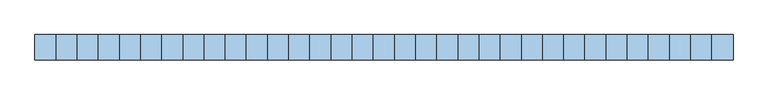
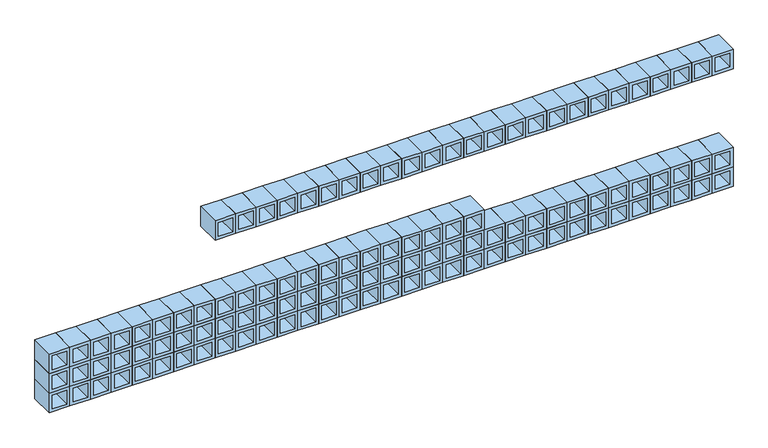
"""IFC4 building model written with IfcOpenShell, lengths in millimetres: window geometry, Concrete_Cobog_Hollow_block_14694 : Cobogó 3,25 x 0,80 m."""

from ifc_helpers import new_model, si_unit, frame, origin, place, context, project, spatial, polyline, outline, extrude, source, transform, mapped, element, save


def window_6c828501(model_context):
    return source(origin(), model_context, "Body", "SweptSolid", [
        extrude(outline(polyline([(1100.0, 450.0), (1200.0, 450.0), (1200.0, 350.0), (1100.0, 350.0), (1100.0, 450.0)]), holes=[polyline([(1185.0, 365.0), (1185.0, 435.0), (1115.0, 435.0), (1115.0, 365.0), (1185.0, 365.0)])]), frame((0.0, -60.0, 0.0), z_axis=(0.0, 1.0, 0.0), x_axis=(0.0, 0.0, 1.0)), (0.0, 0.0, 1.0), 120.0),
        extrude(outline(polyline([(1100.0, 350.0), (1200.0, 350.0), (1200.0, 250.0), (1100.0, 250.0), (1100.0, 350.0)]), holes=[polyline([(1185.0, 265.0), (1185.0, 335.0), (1115.0, 335.0), (1115.0, 265.0), (1185.0, 265.0)])]), frame((0.0, -60.0, 0.0), z_axis=(0.0, 1.0, 0.0), x_axis=(0.0, 0.0, 1.0)), (0.0, 0.0, 1.0), 120.0),
        extrude(outline(polyline([(1100.0, 250.0), (1200.0, 250.0), (1200.0, 150.0), (1100.0, 150.0), (1100.0, 250.0)]), holes=[polyline([(1185.0, 165.0), (1185.0, 235.0), (1115.0, 235.0), (1115.0, 165.0), (1185.0, 165.0)])]), frame((0.0, -60.0, 0.0), z_axis=(0.0, 1.0, 0.0), x_axis=(0.0, 0.0, 1.0)), (0.0, 0.0, 1.0), 120.0),
        extrude(outline(polyline([(1100.0, 150.0), (1200.0, 150.0), (1200.0, 50.0), (1100.0, 50.0), (1100.0, 150.0)]), holes=[polyline([(1185.0, 65.0), (1185.0, 135.0), (1115.0, 135.0), (1115.0, 65.0), (1185.0, 65.0)])]), frame((0.0, -60.0, 0.0), z_axis=(0.0, 1.0, 0.0), x_axis=(0.0, 0.0, 1.0)), (0.0, 0.0, 1.0), 120.0),
        extrude(outline(polyline([(1100.0, 50.0), (1200.0, 50.0), (1200.0, -50.0), (1100.0, -50.0), (1100.0, 50.0)]), holes=[polyline([(1185.0, -35.0), (1185.0, 35.0), (1115.0, 35.0), (1115.0, -35.0), (1185.0, -35.0)])]), frame((0.0, -60.0, 0.0), z_axis=(0.0, 1.0, 0.0), x_axis=(0.0, 0.0, 1.0)), (0.0, 0.0, 1.0), 120.0),
        extrude(outline(polyline([(1100.0, -50.0), (1200.0, -50.0), (1200.0, -150.0), (1100.0, -150.0), (1100.0, -50.0)]), holes=[polyline([(1185.0, -135.0), (1185.0, -65.0), (1115.0, -65.0), (1115.0, -135.0), (1185.0, -135.0)])]), frame((0.0, -60.0, 0.0), z_axis=(0.0, 1.0, 0.0), x_axis=(0.0, 0.0, 1.0)), (0.0, 0.0, 1.0), 120.0),
        extrude(outline(polyline([(1100.0, -150.0), (1200.0, -150.0), (1200.0, -250.0), (1100.0, -250.0), (1100.0, -150.0)]), holes=[polyline([(1185.0, -235.0), (1185.0, -165.0), (1115.0, -165.0), (1115.0, -235.0), (1185.0, -235.0)])]), frame((0.0, -60.0, 0.0), z_axis=(0.0, 1.0, 0.0), x_axis=(0.0, 0.0, 1.0)), (0.0, 0.0, 1.0), 120.0),
        extrude(outline(polyline([(1100.0, -250.0), (1200.0, -250.0), (1200.0, -350.0), (1100.0, -350.0), (1100.0, -250.0)]), holes=[polyline([(1185.0, -335.0), (1185.0, -265.0), (1115.0, -265.0), (1115.0, -335.0), (1185.0, -335.0)])]), frame((0.0, -60.0, 0.0), z_axis=(0.0, 1.0, 0.0), x_axis=(0.0, 0.0, 1.0)), (0.0, 0.0, 1.0), 120.0),
        extrude(outline(polyline([(1100.0, -350.0), (1200.0, -350.0), (1200.0, -450.0), (1100.0, -450.0), (1100.0, -350.0)]), holes=[polyline([(1185.0, -435.0), (1185.0, -365.0), (1115.0, -365.0), (1115.0, -435.0), (1185.0, -435.0)])]), frame((0.0, -60.0, 0.0), z_axis=(0.0, 1.0, 0.0), x_axis=(0.0, 0.0, 1.0)), (0.0, 0.0, 1.0), 120.0),
        extrude(outline(polyline([(1100.0, -450.0), (1200.0, -450.0), (1200.0, -550.0), (1100.0, -550.0), (1100.0, -450.0)]), holes=[polyline([(1185.0, -535.0), (1185.0, -465.0), (1115.0, -465.0), (1115.0, -535.0), (1185.0, -535.0)])]), frame((0.0, -60.0, 0.0), z_axis=(0.0, 1.0, 0.0), x_axis=(0.0, 0.0, 1.0)), (0.0, 0.0, 1.0), 120.0),
        extrude(outline(polyline([(1100.0, -550.0), (1200.0, -550.0), (1200.0, -650.0), (1100.0, -650.0), (1100.0, -550.0)]), holes=[polyline([(1185.0, -635.0), (1185.0, -565.0), (1115.0, -565.0), (1115.0, -635.0), (1185.0, -635.0)])]), frame((0.0, -60.0, 0.0), z_axis=(0.0, 1.0, 0.0), x_axis=(0.0, 0.0, 1.0)), (0.0, 0.0, 1.0), 120.0),
        extrude(outline(polyline([(1100.0, -650.0), (1200.0, -650.0), (1200.0, -750.0), (1100.0, -750.0), (1100.0, -650.0)]), holes=[polyline([(1185.0, -735.0), (1185.0, -665.0), (1115.0, -665.0), (1115.0, -735.0), (1185.0, -735.0)])]), frame((0.0, -60.0, 0.0), z_axis=(0.0, 1.0, 0.0), x_axis=(0.0, 0.0, 1.0)), (0.0, 0.0, 1.0), 120.0),
        extrude(outline(polyline([(1100.0, -750.0), (1200.0, -750.0), (1200.0, -850.0), (1100.0, -850.0), (1100.0, -750.0)]), holes=[polyline([(1185.0, -835.0), (1185.0, -765.0), (1115.0, -765.0), (1115.0, -835.0), (1185.0, -835.0)])]), frame((0.0, -60.0, 0.0), z_axis=(0.0, 1.0, 0.0), x_axis=(0.0, 0.0, 1.0)), (0.0, 0.0, 1.0), 120.0),
        extrude(outline(polyline([(1100.0, -850.0), (1200.0, -850.0), (1200.0, -950.0), (1100.0, -950.0), (1100.0, -850.0)]), holes=[polyline([(1185.0, -935.0), (1185.0, -865.0), (1115.0, -865.0), (1115.0, -935.0), (1185.0, -935.0)])]), frame((0.0, -60.0, 0.0), z_axis=(0.0, 1.0, 0.0), x_axis=(0.0, 0.0, 1.0)), (0.0, 0.0, 1.0), 120.0),
        extrude(outline(polyline([(1100.0, -950.0), (1200.0, -950.0), (1200.0, -1050.0), (1100.0, -1050.0), (1100.0, -950.0)]), holes=[polyline([(1185.0, -1035.0), (1185.0, -965.0), (1115.0, -965.0), (1115.0, -1035.0), (1185.0, -1035.0)])]), frame((0.0, -60.0, 0.0), z_axis=(0.0, 1.0, 0.0), x_axis=(0.0, 0.0, 1.0)), (0.0, 0.0, 1.0), 120.0),
        extrude(outline(polyline([(1100.0, -1050.0), (1200.0, -1050.0), (1200.0, -1150.0), (1100.0, -1150.0), (1100.0, -1050.0)]), holes=[polyline([(1185.0, -1135.0), (1185.0, -1065.0), (1115.0, -1065.0), (1115.0, -1135.0), (1185.0, -1135.0)])]), frame((0.0, -60.0, 0.0), z_axis=(0.0, 1.0, 0.0), x_axis=(0.0, 0.0, 1.0)), (0.0, 0.0, 1.0), 120.0),
        extrude(outline(polyline([(1100.0, -1150.0), (1200.0, -1150.0), (1200.0, -1250.0), (1100.0, -1250.0), (1100.0, -1150.0)]), holes=[polyline([(1185.0, -1235.0), (1185.0, -1165.0), (1115.0, -1165.0), (1115.0, -1235.0), (1185.0, -1235.0)])]), frame((0.0, -60.0, 0.0), z_axis=(0.0, 1.0, 0.0), x_axis=(0.0, 0.0, 1.0)), (0.0, 0.0, 1.0), 120.0),
        extrude(outline(polyline([(1100.0, -1250.0), (1200.0, -1250.0), (1200.0, -1350.0), (1100.0, -1350.0), (1100.0, -1250.0)]), holes=[polyline([(1185.0, -1335.0), (1185.0, -1265.0), (1115.0, -1265.0), (1115.0, -1335.0), (1185.0, -1335.0)])]), frame((0.0, -60.0, 0.0), z_axis=(0.0, 1.0, 0.0), x_axis=(0.0, 0.0, 1.0)), (0.0, 0.0, 1.0), 120.0),
        extrude(outline(polyline([(1100.0, -1350.0), (1200.0, -1350.0), (1200.0, -1450.0), (1100.0, -1450.0), (1100.0, -1350.0)]), holes=[polyline([(1185.0, -1435.0), (1185.0, -1365.0), (1115.0, -1365.0), (1115.0, -1435.0), (1185.0, -1435.0)])]), frame((0.0, -60.0, 0.0), z_axis=(0.0, 1.0, 0.0), x_axis=(0.0, 0.0, 1.0)), (0.0, 0.0, 1.0), 120.0),
        extrude(outline(polyline([(1100.0, -1450.0), (1200.0, -1450.0), (1200.0, -1550.0), (1100.0, -1550.0), (1100.0, -1450.0)]), holes=[polyline([(1185.0, -1535.0), (1185.0, -1465.0), (1115.0, -1465.0), (1115.0, -1535.0), (1185.0, -1535.0)])]), frame((0.0, -60.0, 0.0), z_axis=(0.0, 1.0, 0.0), x_axis=(0.0, 0.0, 1.0)), (0.0, 0.0, 1.0), 120.0),
        extrude(outline(polyline([(1100.0, -1550.0), (1200.0, -1550.0), (1200.0, -1650.0), (1100.0, -1650.0), (1100.0, -1550.0)]), holes=[polyline([(1185.0, -1635.0), (1185.0, -1565.0), (1115.0, -1565.0), (1115.0, -1635.0), (1185.0, -1635.0)])]), frame((0.0, -60.0, 0.0), z_axis=(0.0, 1.0, 0.0), x_axis=(0.0, 0.0, 1.0)), (0.0, 0.0, 1.0), 120.0),
        extrude(outline(polyline([(1000.0, 1650.0), (1100.0, 1650.0), (1100.0, 1550.0), (1000.0, 1550.0), (1000.0, 1650.0)]), holes=[polyline([(1085.0, 1565.0), (1085.0, 1635.0), (1015.0, 1635.0), (1015.0, 1565.0), (1085.0, 1565.0)])]), frame((0.0, -60.0, 0.0), z_axis=(0.0, 1.0, 0.0), x_axis=(0.0, 0.0, 1.0)), (0.0, 0.0, 1.0), 120.0),
        extrude(outline(polyline([(1000.0, 1550.0), (1100.0, 1550.0), (1100.0, 1450.0), (1000.0, 1450.0), (1000.0, 1550.0)]), holes=[polyline([(1085.0, 1465.0), (1085.0, 1535.0), (1015.0, 1535.0), (1015.0, 1465.0), (1085.0, 1465.0)])]), frame((0.0, -60.0, 0.0), z_axis=(0.0, 1.0, 0.0), x_axis=(0.0, 0.0, 1.0)), (0.0, 0.0, 1.0), 120.0),
        extrude(outline(polyline([(1000.0, 1450.0), (1100.0, 1450.0), (1100.0, 1350.0), (1000.0, 1350.0), (1000.0, 1450.0)]), holes=[polyline([(1085.0, 1365.0), (1085.0, 1435.0), (1015.0, 1435.0), (1015.0, 1365.0), (1085.0, 1365.0)])]), frame((0.0, -60.0, 0.0), z_axis=(0.0, 1.0, 0.0), x_axis=(0.0, 0.0, 1.0)), (0.0, 0.0, 1.0), 120.0),
        extrude(outline(polyline([(1000.0, 1350.0), (1100.0, 1350.0), (1100.0, 1250.0), (1000.0, 1250.0), (1000.0, 1350.0)]), holes=[polyline([(1085.0, 1265.0), (1085.0, 1335.0), (1015.0, 1335.0), (1015.0, 1265.0), (1085.0, 1265.0)])]), frame((0.0, -60.0, 0.0), z_axis=(0.0, 1.0, 0.0), x_axis=(0.0, 0.0, 1.0)), (0.0, 0.0, 1.0), 120.0),
        extrude(outline(polyline([(1000.0, 1250.0), (1100.0, 1250.0), (1100.0, 1150.0), (1000.0, 1150.0), (1000.0, 1250.0)]), holes=[polyline([(1085.0, 1165.0), (1085.0, 1235.0), (1015.0, 1235.0), (1015.0, 1165.0), (1085.0, 1165.0)])]), frame((0.0, -60.0, 0.0), z_axis=(0.0, 1.0, 0.0), x_axis=(0.0, 0.0, 1.0)), (0.0, 0.0, 1.0), 120.0),
        extrude(outline(polyline([(1000.0, 1150.0), (1100.0, 1150.0), (1100.0, 1050.0), (1000.0, 1050.0), (1000.0, 1150.0)]), holes=[polyline([(1085.0, 1065.0), (1085.0, 1135.0), (1015.0, 1135.0), (1015.0, 1065.0), (1085.0, 1065.0)])]), frame((0.0, -60.0, 0.0), z_axis=(0.0, 1.0, 0.0), x_axis=(0.0, 0.0, 1.0)), (0.0, 0.0, 1.0), 120.0),
        extrude(outline(polyline([(1000.0, 1050.0), (1100.0, 1050.0), (1100.0, 950.0), (1000.0, 950.0), (1000.0, 1050.0)]), holes=[polyline([(1085.0, 965.0), (1085.0, 1035.0), (1015.0, 1035.0), (1015.0, 965.0), (1085.0, 965.0)])]), frame((0.0, -60.0, 0.0), z_axis=(0.0, 1.0, 0.0), x_axis=(0.0, 0.0, 1.0)), (0.0, 0.0, 1.0), 120.0),
        extrude(outline(polyline([(1000.0, 950.0), (1100.0, 950.0), (1100.0, 850.0), (1000.0, 850.0), (1000.0, 950.0)]), holes=[polyline([(1085.0, 865.0), (1085.0, 935.0), (1015.0, 935.0), (1015.0, 865.0), (1085.0, 865.0)])]), frame((0.0, -60.0, 0.0), z_axis=(0.0, 1.0, 0.0), x_axis=(0.0, 0.0, 1.0)), (0.0, 0.0, 1.0), 120.0),
        extrude(outline(polyline([(1000.0, 850.0), (1100.0, 850.0), (1100.0, 750.0), (1000.0, 750.0), (1000.0, 850.0)]), holes=[polyline([(1085.0, 765.0), (1085.0, 835.0), (1015.0, 835.0), (1015.0, 765.0), (1085.0, 765.0)])]), frame((0.0, -60.0, 0.0), z_axis=(0.0, 1.0, 0.0), x_axis=(0.0, 0.0, 1.0)), (0.0, 0.0, 1.0), 120.0),
        extrude(outline(polyline([(1000.0, 750.0), (1100.0, 750.0), (1100.0, 650.0), (1000.0, 650.0), (1000.0, 750.0)]), holes=[polyline([(1085.0, 665.0), (1085.0, 735.0), (1015.0, 735.0), (1015.0, 665.0), (1085.0, 665.0)])]), frame((0.0, -60.0, 0.0), z_axis=(0.0, 1.0, 0.0), x_axis=(0.0, 0.0, 1.0)), (0.0, 0.0, 1.0), 120.0),
        extrude(outline(polyline([(1000.0, 650.0), (1100.0, 650.0), (1100.0, 550.0), (1000.0, 550.0), (1000.0, 650.0)]), holes=[polyline([(1085.0, 565.0), (1085.0, 635.0), (1015.0, 635.0), (1015.0, 565.0), (1085.0, 565.0)])]), frame((0.0, -60.0, 0.0), z_axis=(0.0, 1.0, 0.0), x_axis=(0.0, 0.0, 1.0)), (0.0, 0.0, 1.0), 120.0),
        extrude(outline(polyline([(1000.0, 550.0), (1100.0, 550.0), (1100.0, 450.0), (1000.0, 450.0), (1000.0, 550.0)]), holes=[polyline([(1085.0, 465.0), (1085.0, 535.0), (1015.0, 535.0), (1015.0, 465.0), (1085.0, 465.0)])]), frame((0.0, -60.0, 0.0), z_axis=(0.0, 1.0, 0.0), x_axis=(0.0, 0.0, 1.0)), (0.0, 0.0, 1.0), 120.0),
        extrude(outline(polyline([(1000.0, 450.0), (1100.0, 450.0), (1100.0, 350.0), (1000.0, 350.0), (1000.0, 450.0)]), holes=[polyline([(1085.0, 365.0), (1085.0, 435.0), (1015.0, 435.0), (1015.0, 365.0), (1085.0, 365.0)])]), frame((0.0, -60.0, 0.0), z_axis=(0.0, 1.0, 0.0), x_axis=(0.0, 0.0, 1.0)), (0.0, 0.0, 1.0), 120.0),
        extrude(outline(polyline([(1000.0, 350.0), (1100.0, 350.0), (1100.0, 250.0), (1000.0, 250.0), (1000.0, 350.0)]), holes=[polyline([(1085.0, 265.0), (1085.0, 335.0), (1015.0, 335.0), (1015.0, 265.0), (1085.0, 265.0)])]), frame((0.0, -60.0, 0.0), z_axis=(0.0, 1.0, 0.0), x_axis=(0.0, 0.0, 1.0)), (0.0, 0.0, 1.0), 120.0),
        extrude(outline(polyline([(1000.0, 250.0), (1100.0, 250.0), (1100.0, 150.0), (1000.0, 150.0), (1000.0, 250.0)]), holes=[polyline([(1085.0, 165.0), (1085.0, 235.0), (1015.0, 235.0), (1015.0, 165.0), (1085.0, 165.0)])]), frame((0.0, -60.0, 0.0), z_axis=(0.0, 1.0, 0.0), x_axis=(0.0, 0.0, 1.0)), (0.0, 0.0, 1.0), 120.0),
        extrude(outline(polyline([(1000.0, 150.0), (1100.0, 150.0), (1100.0, 50.0), (1000.0, 50.0), (1000.0, 150.0)]), holes=[polyline([(1085.0, 65.0), (1085.0, 135.0), (1015.0, 135.0), (1015.0, 65.0), (1085.0, 65.0)])]), frame((0.0, -60.0, 0.0), z_axis=(0.0, 1.0, 0.0), x_axis=(0.0, 0.0, 1.0)), (0.0, 0.0, 1.0), 120.0),
        extrude(outline(polyline([(1000.0, 50.0), (1100.0, 50.0), (1100.0, -50.0), (1000.0, -50.0), (1000.0, 50.0)]), holes=[polyline([(1085.0, -35.0), (1085.0, 35.0), (1015.0, 35.0), (1015.0, -35.0), (1085.0, -35.0)])]), frame((0.0, -60.0, 0.0), z_axis=(0.0, 1.0, 0.0), x_axis=(0.0, 0.0, 1.0)), (0.0, 0.0, 1.0), 120.0),
        extrude(outline(polyline([(1000.0, -50.0), (1100.0, -50.0), (1100.0, -150.0), (1000.0, -150.0), (1000.0, -50.0)]), holes=[polyline([(1085.0, -135.0), (1085.0, -65.0), (1015.0, -65.0), (1015.0, -135.0), (1085.0, -135.0)])]), frame((0.0, -60.0, 0.0), z_axis=(0.0, 1.0, 0.0), x_axis=(0.0, 0.0, 1.0)), (0.0, 0.0, 1.0), 120.0),
        extrude(outline(polyline([(1000.0, -150.0), (1100.0, -150.0), (1100.0, -250.0), (1000.0, -250.0), (1000.0, -150.0)]), holes=[polyline([(1085.0, -235.0), (1085.0, -165.0), (1015.0, -165.0), (1015.0, -235.0), (1085.0, -235.0)])]), frame((0.0, -60.0, 0.0), z_axis=(0.0, 1.0, 0.0), x_axis=(0.0, 0.0, 1.0)), (0.0, 0.0, 1.0), 120.0),
        extrude(outline(polyline([(1000.0, -250.0), (1100.0, -250.0), (1100.0, -350.0), (1000.0, -350.0), (1000.0, -250.0)]), holes=[polyline([(1085.0, -335.0), (1085.0, -265.0), (1015.0, -265.0), (1015.0, -335.0), (1085.0, -335.0)])]), frame((0.0, -60.0, 0.0), z_axis=(0.0, 1.0, 0.0), x_axis=(0.0, 0.0, 1.0)), (0.0, 0.0, 1.0), 120.0),
        extrude(outline(polyline([(1000.0, -350.0), (1100.0, -350.0), (1100.0, -450.0), (1000.0, -450.0), (1000.0, -350.0)]), holes=[polyline([(1085.0, -435.0), (1085.0, -365.0), (1015.0, -365.0), (1015.0, -435.0), (1085.0, -435.0)])]), frame((0.0, -60.0, 0.0), z_axis=(0.0, 1.0, 0.0), x_axis=(0.0, 0.0, 1.0)), (0.0, 0.0, 1.0), 120.0),
        extrude(outline(polyline([(1000.0, -450.0), (1100.0, -450.0), (1100.0, -550.0), (1000.0, -550.0), (1000.0, -450.0)]), holes=[polyline([(1085.0, -535.0), (1085.0, -465.0), (1015.0, -465.0), (1015.0, -535.0), (1085.0, -535.0)])]), frame((0.0, -60.0, 0.0), z_axis=(0.0, 1.0, 0.0), x_axis=(0.0, 0.0, 1.0)), (0.0, 0.0, 1.0), 120.0),
        extrude(outline(polyline([(1000.0, -550.0), (1100.0, -550.0), (1100.0, -650.0), (1000.0, -650.0), (1000.0, -550.0)]), holes=[polyline([(1085.0, -635.0), (1085.0, -565.0), (1015.0, -565.0), (1015.0, -635.0), (1085.0, -635.0)])]), frame((0.0, -60.0, 0.0), z_axis=(0.0, 1.0, 0.0), x_axis=(0.0, 0.0, 1.0)), (0.0, 0.0, 1.0), 120.0),
        extrude(outline(polyline([(1000.0, -650.0), (1100.0, -650.0), (1100.0, -750.0), (1000.0, -750.0), (1000.0, -650.0)]), holes=[polyline([(1085.0, -735.0), (1085.0, -665.0), (1015.0, -665.0), (1015.0, -735.0), (1085.0, -735.0)])]), frame((0.0, -60.0, 0.0), z_axis=(0.0, 1.0, 0.0), x_axis=(0.0, 0.0, 1.0)), (0.0, 0.0, 1.0), 120.0),
        extrude(outline(polyline([(1000.0, -750.0), (1100.0, -750.0), (1100.0, -850.0), (1000.0, -850.0), (1000.0, -750.0)]), holes=[polyline([(1085.0, -835.0), (1085.0, -765.0), (1015.0, -765.0), (1015.0, -835.0), (1085.0, -835.0)])]), frame((0.0, -60.0, 0.0), z_axis=(0.0, 1.0, 0.0), x_axis=(0.0, 0.0, 1.0)), (0.0, 0.0, 1.0), 120.0),
        extrude(outline(polyline([(1000.0, -850.0), (1100.0, -850.0), (1100.0, -950.0), (1000.0, -950.0), (1000.0, -850.0)]), holes=[polyline([(1085.0, -935.0), (1085.0, -865.0), (1015.0, -865.0), (1015.0, -935.0), (1085.0, -935.0)])]), frame((0.0, -60.0, 0.0), z_axis=(0.0, 1.0, 0.0), x_axis=(0.0, 0.0, 1.0)), (0.0, 0.0, 1.0), 120.0),
        extrude(outline(polyline([(1000.0, -950.0), (1100.0, -950.0), (1100.0, -1050.0), (1000.0, -1050.0), (1000.0, -950.0)]), holes=[polyline([(1085.0, -1035.0), (1085.0, -965.0), (1015.0, -965.0), (1015.0, -1035.0), (1085.0, -1035.0)])]), frame((0.0, -60.0, 0.0), z_axis=(0.0, 1.0, 0.0), x_axis=(0.0, 0.0, 1.0)), (0.0, 0.0, 1.0), 120.0),
        extrude(outline(polyline([(1000.0, -1050.0), (1100.0, -1050.0), (1100.0, -1150.0), (1000.0, -1150.0), (1000.0, -1050.0)]), holes=[polyline([(1085.0, -1135.0), (1085.0, -1065.0), (1015.0, -1065.0), (1015.0, -1135.0), (1085.0, -1135.0)])]), frame((0.0, -60.0, 0.0), z_axis=(0.0, 1.0, 0.0), x_axis=(0.0, 0.0, 1.0)), (0.0, 0.0, 1.0), 120.0),
        extrude(outline(polyline([(1000.0, -1150.0), (1100.0, -1150.0), (1100.0, -1250.0), (1000.0, -1250.0), (1000.0, -1150.0)]), holes=[polyline([(1085.0, -1235.0), (1085.0, -1165.0), (1015.0, -1165.0), (1015.0, -1235.0), (1085.0, -1235.0)])]), frame((0.0, -60.0, 0.0), z_axis=(0.0, 1.0, 0.0), x_axis=(0.0, 0.0, 1.0)), (0.0, 0.0, 1.0), 120.0),
        extrude(outline(polyline([(1000.0, -1250.0), (1100.0, -1250.0), (1100.0, -1350.0), (1000.0, -1350.0), (1000.0, -1250.0)]), holes=[polyline([(1085.0, -1335.0), (1085.0, -1265.0), (1015.0, -1265.0), (1015.0, -1335.0), (1085.0, -1335.0)])]), frame((0.0, -60.0, 0.0), z_axis=(0.0, 1.0, 0.0), x_axis=(0.0, 0.0, 1.0)), (0.0, 0.0, 1.0), 120.0),
        extrude(outline(polyline([(1000.0, -1350.0), (1100.0, -1350.0), (1100.0, -1450.0), (1000.0, -1450.0), (1000.0, -1350.0)]), holes=[polyline([(1085.0, -1435.0), (1085.0, -1365.0), (1015.0, -1365.0), (1015.0, -1435.0), (1085.0, -1435.0)])]), frame((0.0, -60.0, 0.0), z_axis=(0.0, 1.0, 0.0), x_axis=(0.0, 0.0, 1.0)), (0.0, 0.0, 1.0), 120.0),
        extrude(outline(polyline([(1000.0, -1450.0), (1100.0, -1450.0), (1100.0, -1550.0), (1000.0, -1550.0), (1000.0, -1450.0)]), holes=[polyline([(1085.0, -1535.0), (1085.0, -1465.0), (1015.0, -1465.0), (1015.0, -1535.0), (1085.0, -1535.0)])]), frame((0.0, -60.0, 0.0), z_axis=(0.0, 1.0, 0.0), x_axis=(0.0, 0.0, 1.0)), (0.0, 0.0, 1.0), 120.0),
        extrude(outline(polyline([(1000.0, -1550.0), (1100.0, -1550.0), (1100.0, -1650.0), (1000.0, -1650.0), (1000.0, -1550.0)]), holes=[polyline([(1085.0, -1635.0), (1085.0, -1565.0), (1015.0, -1565.0), (1015.0, -1635.0), (1085.0, -1635.0)])]), frame((0.0, -60.0, 0.0), z_axis=(0.0, 1.0, 0.0), x_axis=(0.0, 0.0, 1.0)), (0.0, 0.0, 1.0), 120.0),
        extrude(outline(polyline([(900.0, 1650.0), (1000.0, 1650.0), (1000.0, 1550.0), (900.0, 1550.0), (900.0, 1650.0)]), holes=[polyline([(985.0, 1565.0), (985.0, 1635.0), (915.0, 1635.0), (915.0, 1565.0), (985.0, 1565.0)])]), frame((0.0, -60.0, 0.0), z_axis=(0.0, 1.0, 0.0), x_axis=(0.0, 0.0, 1.0)), (0.0, 0.0, 1.0), 120.0),
        extrude(outline(polyline([(900.0, 1550.0), (1000.0, 1550.0), (1000.0, 1450.0), (900.0, 1450.0), (900.0, 1550.0)]), holes=[polyline([(985.0, 1465.0), (985.0, 1535.0), (915.0, 1535.0), (915.0, 1465.0), (985.0, 1465.0)])]), frame((0.0, -60.0, 0.0), z_axis=(0.0, 1.0, 0.0), x_axis=(0.0, 0.0, 1.0)), (0.0, 0.0, 1.0), 120.0),
        extrude(outline(polyline([(900.0, 1450.0), (1000.0, 1450.0), (1000.0, 1350.0), (900.0, 1350.0), (900.0, 1450.0)]), holes=[polyline([(985.0, 1365.0), (985.0, 1435.0), (915.0, 1435.0), (915.0, 1365.0), (985.0, 1365.0)])]), frame((0.0, -60.0, 0.0), z_axis=(0.0, 1.0, 0.0), x_axis=(0.0, 0.0, 1.0)), (0.0, 0.0, 1.0), 120.0),
        extrude(outline(polyline([(900.0, 1350.0), (1000.0, 1350.0), (1000.0, 1250.0), (900.0, 1250.0), (900.0, 1350.0)]), holes=[polyline([(985.0, 1265.0), (985.0, 1335.0), (915.0, 1335.0), (915.0, 1265.0), (985.0, 1265.0)])]), frame((0.0, -60.0, 0.0), z_axis=(0.0, 1.0, 0.0), x_axis=(0.0, 0.0, 1.0)), (0.0, 0.0, 1.0), 120.0),
        extrude(outline(polyline([(900.0, 1250.0), (1000.0, 1250.0), (1000.0, 1150.0), (900.0, 1150.0), (900.0, 1250.0)]), holes=[polyline([(985.0, 1165.0), (985.0, 1235.0), (915.0, 1235.0), (915.0, 1165.0), (985.0, 1165.0)])]), frame((0.0, -60.0, 0.0), z_axis=(0.0, 1.0, 0.0), x_axis=(0.0, 0.0, 1.0)), (0.0, 0.0, 1.0), 120.0),
        extrude(outline(polyline([(900.0, 1150.0), (1000.0, 1150.0), (1000.0, 1050.0), (900.0, 1050.0), (900.0, 1150.0)]), holes=[polyline([(985.0, 1065.0), (985.0, 1135.0), (915.0, 1135.0), (915.0, 1065.0), (985.0, 1065.0)])]), frame((0.0, -60.0, 0.0), z_axis=(0.0, 1.0, 0.0), x_axis=(0.0, 0.0, 1.0)), (0.0, 0.0, 1.0), 120.0),
        extrude(outline(polyline([(900.0, 1050.0), (1000.0, 1050.0), (1000.0, 950.0), (900.0, 950.0), (900.0, 1050.0)]), holes=[polyline([(985.0, 965.0), (985.0, 1035.0), (915.0, 1035.0), (915.0, 965.0), (985.0, 965.0)])]), frame((0.0, -60.0, 0.0), z_axis=(0.0, 1.0, 0.0), x_axis=(0.0, 0.0, 1.0)), (0.0, 0.0, 1.0), 120.0),
        extrude(outline(polyline([(900.0, 950.0), (1000.0, 950.0), (1000.0, 850.0), (900.0, 850.0), (900.0, 950.0)]), holes=[polyline([(985.0, 865.0), (985.0, 935.0), (915.0, 935.0), (915.0, 865.0), (985.0, 865.0)])]), frame((0.0, -60.0, 0.0), z_axis=(0.0, 1.0, 0.0), x_axis=(0.0, 0.0, 1.0)), (0.0, 0.0, 1.0), 120.0),
        extrude(outline(polyline([(900.0, 850.0), (1000.0, 850.0), (1000.0, 750.0), (900.0, 750.0), (900.0, 850.0)]), holes=[polyline([(985.0, 765.0), (985.0, 835.0), (915.0, 835.0), (915.0, 765.0), (985.0, 765.0)])]), frame((0.0, -60.0, 0.0), z_axis=(0.0, 1.0, 0.0), x_axis=(0.0, 0.0, 1.0)), (0.0, 0.0, 1.0), 120.0),
        extrude(outline(polyline([(900.0, 750.0), (1000.0, 750.0), (1000.0, 650.0), (900.0, 650.0), (900.0, 750.0)]), holes=[polyline([(985.0, 665.0), (985.0, 735.0), (915.0, 735.0), (915.0, 665.0), (985.0, 665.0)])]), frame((0.0, -60.0, 0.0), z_axis=(0.0, 1.0, 0.0), x_axis=(0.0, 0.0, 1.0)), (0.0, 0.0, 1.0), 120.0),
        extrude(outline(polyline([(900.0, 650.0), (1000.0, 650.0), (1000.0, 550.0), (900.0, 550.0), (900.0, 650.0)]), holes=[polyline([(985.0, 565.0), (985.0, 635.0), (915.0, 635.0), (915.0, 565.0), (985.0, 565.0)])]), frame((0.0, -60.0, 0.0), z_axis=(0.0, 1.0, 0.0), x_axis=(0.0, 0.0, 1.0)), (0.0, 0.0, 1.0), 120.0),
        extrude(outline(polyline([(900.0, 550.0), (1000.0, 550.0), (1000.0, 450.0), (900.0, 450.0), (900.0, 550.0)]), holes=[polyline([(985.0, 465.0), (985.0, 535.0), (915.0, 535.0), (915.0, 465.0), (985.0, 465.0)])]), frame((0.0, -60.0, 0.0), z_axis=(0.0, 1.0, 0.0), x_axis=(0.0, 0.0, 1.0)), (0.0, 0.0, 1.0), 120.0),
        extrude(outline(polyline([(900.0, 450.0), (1000.0, 450.0), (1000.0, 350.0), (900.0, 350.0), (900.0, 450.0)]), holes=[polyline([(985.0, 365.0), (985.0, 435.0), (915.0, 435.0), (915.0, 365.0), (985.0, 365.0)])]), frame((0.0, -60.0, 0.0), z_axis=(0.0, 1.0, 0.0), x_axis=(0.0, 0.0, 1.0)), (0.0, 0.0, 1.0), 120.0),
        extrude(outline(polyline([(900.0, 350.0), (1000.0, 350.0), (1000.0, 250.0), (900.0, 250.0), (900.0, 350.0)]), holes=[polyline([(985.0, 265.0), (985.0, 335.0), (915.0, 335.0), (915.0, 265.0), (985.0, 265.0)])]), frame((0.0, -60.0, 0.0), z_axis=(0.0, 1.0, 0.0), x_axis=(0.0, 0.0, 1.0)), (0.0, 0.0, 1.0), 120.0),
        extrude(outline(polyline([(900.0, 250.0), (1000.0, 250.0), (1000.0, 150.0), (900.0, 150.0), (900.0, 250.0)]), holes=[polyline([(985.0, 165.0), (985.0, 235.0), (915.0, 235.0), (915.0, 165.0), (985.0, 165.0)])]), frame((0.0, -60.0, 0.0), z_axis=(0.0, 1.0, 0.0), x_axis=(0.0, 0.0, 1.0)), (0.0, 0.0, 1.0), 120.0),
        extrude(outline(polyline([(900.0, 150.0), (1000.0, 150.0), (1000.0, 50.0), (900.0, 50.0), (900.0, 150.0)]), holes=[polyline([(985.0, 65.0), (985.0, 135.0), (915.0, 135.0), (915.0, 65.0), (985.0, 65.0)])]), frame((0.0, -60.0, 0.0), z_axis=(0.0, 1.0, 0.0), x_axis=(0.0, 0.0, 1.0)), (0.0, 0.0, 1.0), 120.0),
        extrude(outline(polyline([(900.0, 50.0), (1000.0, 50.0), (1000.0, -50.0), (900.0, -50.0), (900.0, 50.0)]), holes=[polyline([(985.0, -35.0), (985.0, 35.0), (915.0, 35.0), (915.0, -35.0), (985.0, -35.0)])]), frame((0.0, -60.0, 0.0), z_axis=(0.0, 1.0, 0.0), x_axis=(0.0, 0.0, 1.0)), (0.0, 0.0, 1.0), 120.0),
        extrude(outline(polyline([(900.0, -50.0), (1000.0, -50.0), (1000.0, -150.0), (900.0, -150.0), (900.0, -50.0)]), holes=[polyline([(985.0, -135.0), (985.0, -65.0), (915.0, -65.0), (915.0, -135.0), (985.0, -135.0)])]), frame((0.0, -60.0, 0.0), z_axis=(0.0, 1.0, 0.0), x_axis=(0.0, 0.0, 1.0)), (0.0, 0.0, 1.0), 120.0),
        extrude(outline(polyline([(900.0, -150.0), (1000.0, -150.0), (1000.0, -250.0), (900.0, -250.0), (900.0, -150.0)]), holes=[polyline([(985.0, -235.0), (985.0, -165.0), (915.0, -165.0), (915.0, -235.0), (985.0, -235.0)])]), frame((0.0, -60.0, 0.0), z_axis=(0.0, 1.0, 0.0), x_axis=(0.0, 0.0, 1.0)), (0.0, 0.0, 1.0), 120.0),
        extrude(outline(polyline([(900.0, -250.0), (1000.0, -250.0), (1000.0, -350.0), (900.0, -350.0), (900.0, -250.0)]), holes=[polyline([(985.0, -335.0), (985.0, -265.0), (915.0, -265.0), (915.0, -335.0), (985.0, -335.0)])]), frame((0.0, -60.0, 0.0), z_axis=(0.0, 1.0, 0.0), x_axis=(0.0, 0.0, 1.0)), (0.0, 0.0, 1.0), 120.0),
        extrude(outline(polyline([(900.0, -350.0), (1000.0, -350.0), (1000.0, -450.0), (900.0, -450.0), (900.0, -350.0)]), holes=[polyline([(985.0, -435.0), (985.0, -365.0), (915.0, -365.0), (915.0, -435.0), (985.0, -435.0)])]), frame((0.0, -60.0, 0.0), z_axis=(0.0, 1.0, 0.0), x_axis=(0.0, 0.0, 1.0)), (0.0, 0.0, 1.0), 120.0),
        extrude(outline(polyline([(900.0, -450.0), (1000.0, -450.0), (1000.0, -550.0), (900.0, -550.0), (900.0, -450.0)]), holes=[polyline([(985.0, -535.0), (985.0, -465.0), (915.0, -465.0), (915.0, -535.0), (985.0, -535.0)])]), frame((0.0, -60.0, 0.0), z_axis=(0.0, 1.0, 0.0), x_axis=(0.0, 0.0, 1.0)), (0.0, 0.0, 1.0), 120.0),
        extrude(outline(polyline([(900.0, -550.0), (1000.0, -550.0), (1000.0, -650.0), (900.0, -650.0), (900.0, -550.0)]), holes=[polyline([(985.0, -635.0), (985.0, -565.0), (915.0, -565.0), (915.0, -635.0), (985.0, -635.0)])]), frame((0.0, -60.0, 0.0), z_axis=(0.0, 1.0, 0.0), x_axis=(0.0, 0.0, 1.0)), (0.0, 0.0, 1.0), 120.0),
        extrude(outline(polyline([(900.0, -650.0), (1000.0, -650.0), (1000.0, -750.0), (900.0, -750.0), (900.0, -650.0)]), holes=[polyline([(985.0, -735.0), (985.0, -665.0), (915.0, -665.0), (915.0, -735.0), (985.0, -735.0)])]), frame((0.0, -60.0, 0.0), z_axis=(0.0, 1.0, 0.0), x_axis=(0.0, 0.0, 1.0)), (0.0, 0.0, 1.0), 120.0),
        extrude(outline(polyline([(900.0, -750.0), (1000.0, -750.0), (1000.0, -850.0), (900.0, -850.0), (900.0, -750.0)]), holes=[polyline([(985.0, -835.0), (985.0, -765.0), (915.0, -765.0), (915.0, -835.0), (985.0, -835.0)])]), frame((0.0, -60.0, 0.0), z_axis=(0.0, 1.0, 0.0), x_axis=(0.0, 0.0, 1.0)), (0.0, 0.0, 1.0), 120.0),
        extrude(outline(polyline([(900.0, -850.0), (1000.0, -850.0), (1000.0, -950.0), (900.0, -950.0), (900.0, -850.0)]), holes=[polyline([(985.0, -935.0), (985.0, -865.0), (915.0, -865.0), (915.0, -935.0), (985.0, -935.0)])]), frame((0.0, -60.0, 0.0), z_axis=(0.0, 1.0, 0.0), x_axis=(0.0, 0.0, 1.0)), (0.0, 0.0, 1.0), 120.0),
        extrude(outline(polyline([(900.0, -950.0), (1000.0, -950.0), (1000.0, -1050.0), (900.0, -1050.0), (900.0, -950.0)]), holes=[polyline([(985.0, -1035.0), (985.0, -965.0), (915.0, -965.0), (915.0, -1035.0), (985.0, -1035.0)])]), frame((0.0, -60.0, 0.0), z_axis=(0.0, 1.0, 0.0), x_axis=(0.0, 0.0, 1.0)), (0.0, 0.0, 1.0), 120.0),
        extrude(outline(polyline([(900.0, -1050.0), (1000.0, -1050.0), (1000.0, -1150.0), (900.0, -1150.0), (900.0, -1050.0)]), holes=[polyline([(985.0, -1135.0), (985.0, -1065.0), (915.0, -1065.0), (915.0, -1135.0), (985.0, -1135.0)])]), frame((0.0, -60.0, 0.0), z_axis=(0.0, 1.0, 0.0), x_axis=(0.0, 0.0, 1.0)), (0.0, 0.0, 1.0), 120.0),
        extrude(outline(polyline([(900.0, -1150.0), (1000.0, -1150.0), (1000.0, -1250.0), (900.0, -1250.0), (900.0, -1150.0)]), holes=[polyline([(985.0, -1235.0), (985.0, -1165.0), (915.0, -1165.0), (915.0, -1235.0), (985.0, -1235.0)])]), frame((0.0, -60.0, 0.0), z_axis=(0.0, 1.0, 0.0), x_axis=(0.0, 0.0, 1.0)), (0.0, 0.0, 1.0), 120.0),
        extrude(outline(polyline([(900.0, -1250.0), (1000.0, -1250.0), (1000.0, -1350.0), (900.0, -1350.0), (900.0, -1250.0)]), holes=[polyline([(985.0, -1335.0), (985.0, -1265.0), (915.0, -1265.0), (915.0, -1335.0), (985.0, -1335.0)])]), frame((0.0, -60.0, 0.0), z_axis=(0.0, 1.0, 0.0), x_axis=(0.0, 0.0, 1.0)), (0.0, 0.0, 1.0), 120.0),
        extrude(outline(polyline([(900.0, -1350.0), (1000.0, -1350.0), (1000.0, -1450.0), (900.0, -1450.0), (900.0, -1350.0)]), holes=[polyline([(985.0, -1435.0), (985.0, -1365.0), (915.0, -1365.0), (915.0, -1435.0), (985.0, -1435.0)])]), frame((0.0, -60.0, 0.0), z_axis=(0.0, 1.0, 0.0), x_axis=(0.0, 0.0, 1.0)), (0.0, 0.0, 1.0), 120.0),
        extrude(outline(polyline([(900.0, -1450.0), (1000.0, -1450.0), (1000.0, -1550.0), (900.0, -1550.0), (900.0, -1450.0)]), holes=[polyline([(985.0, -1535.0), (985.0, -1465.0), (915.0, -1465.0), (915.0, -1535.0), (985.0, -1535.0)])]), frame((0.0, -60.0, 0.0), z_axis=(0.0, 1.0, 0.0), x_axis=(0.0, 0.0, 1.0)), (0.0, 0.0, 1.0), 120.0),
        extrude(outline(polyline([(900.0, -1550.0), (1000.0, -1550.0), (1000.0, -1650.0), (900.0, -1650.0), (900.0, -1550.0)]), holes=[polyline([(985.0, -1635.0), (985.0, -1565.0), (915.0, -1565.0), (915.0, -1635.0), (985.0, -1635.0)])]), frame((0.0, -60.0, 0.0), z_axis=(0.0, 1.0, 0.0), x_axis=(0.0, 0.0, 1.0)), (0.0, 0.0, 1.0), 120.0),
        extrude(outline(polyline([(1500.0, 1650.0), (1600.0, 1650.0), (1600.0, 1550.0), (1500.0, 1550.0), (1500.0, 1650.0)]), holes=[polyline([(1585.0, 1565.0), (1585.0, 1635.0), (1515.0, 1635.0), (1515.0, 1565.0), (1585.0, 1565.0)])]), frame((0.0, -60.0, 0.0), z_axis=(0.0, 1.0, 0.0), x_axis=(0.0, 0.0, 1.0)), (0.0, 0.0, 1.0), 120.0),
        extrude(outline(polyline([(1500.0, 1550.0), (1600.0, 1550.0), (1600.0, 1450.0), (1500.0, 1450.0), (1500.0, 1550.0)]), holes=[polyline([(1585.0, 1465.0), (1585.0, 1535.0), (1515.0, 1535.0), (1515.0, 1465.0), (1585.0, 1465.0)])]), frame((0.0, -60.0, 0.0), z_axis=(0.0, 1.0, 0.0), x_axis=(0.0, 0.0, 1.0)), (0.0, 0.0, 1.0), 120.0),
        extrude(outline(polyline([(1500.0, 1450.0), (1600.0, 1450.0), (1600.0, 1350.0), (1500.0, 1350.0), (1500.0, 1450.0)]), holes=[polyline([(1585.0, 1365.0), (1585.0, 1435.0), (1515.0, 1435.0), (1515.0, 1365.0), (1585.0, 1365.0)])]), frame((0.0, -60.0, 0.0), z_axis=(0.0, 1.0, 0.0), x_axis=(0.0, 0.0, 1.0)), (0.0, 0.0, 1.0), 120.0),
        extrude(outline(polyline([(1500.0, 1350.0), (1600.0, 1350.0), (1600.0, 1250.0), (1500.0, 1250.0), (1500.0, 1350.0)]), holes=[polyline([(1585.0, 1265.0), (1585.0, 1335.0), (1515.0, 1335.0), (1515.0, 1265.0), (1585.0, 1265.0)])]), frame((0.0, -60.0, 0.0), z_axis=(0.0, 1.0, 0.0), x_axis=(0.0, 0.0, 1.0)), (0.0, 0.0, 1.0), 120.0),
        extrude(outline(polyline([(1500.0, 1250.0), (1600.0, 1250.0), (1600.0, 1150.0), (1500.0, 1150.0), (1500.0, 1250.0)]), holes=[polyline([(1585.0, 1165.0), (1585.0, 1235.0), (1515.0, 1235.0), (1515.0, 1165.0), (1585.0, 1165.0)])]), frame((0.0, -60.0, 0.0), z_axis=(0.0, 1.0, 0.0), x_axis=(0.0, 0.0, 1.0)), (0.0, 0.0, 1.0), 120.0),
        extrude(outline(polyline([(1500.0, 1150.0), (1600.0, 1150.0), (1600.0, 1050.0), (1500.0, 1050.0), (1500.0, 1150.0)]), holes=[polyline([(1585.0, 1065.0), (1585.0, 1135.0), (1515.0, 1135.0), (1515.0, 1065.0), (1585.0, 1065.0)])]), frame((0.0, -60.0, 0.0), z_axis=(0.0, 1.0, 0.0), x_axis=(0.0, 0.0, 1.0)), (0.0, 0.0, 1.0), 120.0),
        extrude(outline(polyline([(1500.0, 1050.0), (1600.0, 1050.0), (1600.0, 950.0), (1500.0, 950.0), (1500.0, 1050.0)]), holes=[polyline([(1585.0, 965.0), (1585.0, 1035.0), (1515.0, 1035.0), (1515.0, 965.0), (1585.0, 965.0)])]), frame((0.0, -60.0, 0.0), z_axis=(0.0, 1.0, 0.0), x_axis=(0.0, 0.0, 1.0)), (0.0, 0.0, 1.0), 120.0),
        extrude(outline(polyline([(1500.0, 950.0), (1600.0, 950.0), (1600.0, 850.0), (1500.0, 850.0), (1500.0, 950.0)]), holes=[polyline([(1585.0, 865.0), (1585.0, 935.0), (1515.0, 935.0), (1515.0, 865.0), (1585.0, 865.0)])]), frame((0.0, -60.0, 0.0), z_axis=(0.0, 1.0, 0.0), x_axis=(0.0, 0.0, 1.0)), (0.0, 0.0, 1.0), 120.0),
        extrude(outline(polyline([(1500.0, 850.0), (1600.0, 850.0), (1600.0, 750.0), (1500.0, 750.0), (1500.0, 850.0)]), holes=[polyline([(1585.0, 765.0), (1585.0, 835.0), (1515.0, 835.0), (1515.0, 765.0), (1585.0, 765.0)])]), frame((0.0, -60.0, 0.0), z_axis=(0.0, 1.0, 0.0), x_axis=(0.0, 0.0, 1.0)), (0.0, 0.0, 1.0), 120.0),
        extrude(outline(polyline([(1500.0, 750.0), (1600.0, 750.0), (1600.0, 650.0), (1500.0, 650.0), (1500.0, 750.0)]), holes=[polyline([(1585.0, 665.0), (1585.0, 735.0), (1515.0, 735.0), (1515.0, 665.0), (1585.0, 665.0)])]), frame((0.0, -60.0, 0.0), z_axis=(0.0, 1.0, 0.0), x_axis=(0.0, 0.0, 1.0)), (0.0, 0.0, 1.0), 120.0),
        extrude(outline(polyline([(1500.0, 650.0), (1600.0, 650.0), (1600.0, 550.0), (1500.0, 550.0), (1500.0, 650.0)]), holes=[polyline([(1585.0, 565.0), (1585.0, 635.0), (1515.0, 635.0), (1515.0, 565.0), (1585.0, 565.0)])]), frame((0.0, -60.0, 0.0), z_axis=(0.0, 1.0, 0.0), x_axis=(0.0, 0.0, 1.0)), (0.0, 0.0, 1.0), 120.0),
        extrude(outline(polyline([(1500.0, 550.0), (1600.0, 550.0), (1600.0, 450.0), (1500.0, 450.0), (1500.0, 550.0)]), holes=[polyline([(1585.0, 465.0), (1585.0, 535.0), (1515.0, 535.0), (1515.0, 465.0), (1585.0, 465.0)])]), frame((0.0, -60.0, 0.0), z_axis=(0.0, 1.0, 0.0), x_axis=(0.0, 0.0, 1.0)), (0.0, 0.0, 1.0), 120.0),
        extrude(outline(polyline([(1500.0, 450.0), (1600.0, 450.0), (1600.0, 350.0), (1500.0, 350.0), (1500.0, 450.0)]), holes=[polyline([(1585.0, 365.0), (1585.0, 435.0), (1515.0, 435.0), (1515.0, 365.0), (1585.0, 365.0)])]), frame((0.0, -60.0, 0.0), z_axis=(0.0, 1.0, 0.0), x_axis=(0.0, 0.0, 1.0)), (0.0, 0.0, 1.0), 120.0),
        extrude(outline(polyline([(1500.0, 350.0), (1600.0, 350.0), (1600.0, 250.0), (1500.0, 250.0), (1500.0, 350.0)]), holes=[polyline([(1585.0, 265.0), (1585.0, 335.0), (1515.0, 335.0), (1515.0, 265.0), (1585.0, 265.0)])]), frame((0.0, -60.0, 0.0), z_axis=(0.0, 1.0, 0.0), x_axis=(0.0, 0.0, 1.0)), (0.0, 0.0, 1.0), 120.0),
        extrude(outline(polyline([(1500.0, 250.0), (1600.0, 250.0), (1600.0, 150.0), (1500.0, 150.0), (1500.0, 250.0)]), holes=[polyline([(1585.0, 165.0), (1585.0, 235.0), (1515.0, 235.0), (1515.0, 165.0), (1585.0, 165.0)])]), frame((0.0, -60.0, 0.0), z_axis=(0.0, 1.0, 0.0), x_axis=(0.0, 0.0, 1.0)), (0.0, 0.0, 1.0), 120.0),
        extrude(outline(polyline([(1500.0, 150.0), (1600.0, 150.0), (1600.0, 50.0), (1500.0, 50.0), (1500.0, 150.0)]), holes=[polyline([(1585.0, 65.0), (1585.0, 135.0), (1515.0, 135.0), (1515.0, 65.0), (1585.0, 65.0)])]), frame((0.0, -60.0, 0.0), z_axis=(0.0, 1.0, 0.0), x_axis=(0.0, 0.0, 1.0)), (0.0, 0.0, 1.0), 120.0),
        extrude(outline(polyline([(1500.0, 50.0), (1600.0, 50.0), (1600.0, -50.0), (1500.0, -50.0), (1500.0, 50.0)]), holes=[polyline([(1585.0, -35.0), (1585.0, 35.0), (1515.0, 35.0), (1515.0, -35.0), (1585.0, -35.0)])]), frame((0.0, -60.0, 0.0), z_axis=(0.0, 1.0, 0.0), x_axis=(0.0, 0.0, 1.0)), (0.0, 0.0, 1.0), 120.0),
        extrude(outline(polyline([(1500.0, -50.0), (1600.0, -50.0), (1600.0, -150.0), (1500.0, -150.0), (1500.0, -50.0)]), holes=[polyline([(1585.0, -135.0), (1585.0, -65.0), (1515.0, -65.0), (1515.0, -135.0), (1585.0, -135.0)])]), frame((0.0, -60.0, 0.0), z_axis=(0.0, 1.0, 0.0), x_axis=(0.0, 0.0, 1.0)), (0.0, 0.0, 1.0), 120.0),
        extrude(outline(polyline([(1500.0, -150.0), (1600.0, -150.0), (1600.0, -250.0), (1500.0, -250.0), (1500.0, -150.0)]), holes=[polyline([(1585.0, -235.0), (1585.0, -165.0), (1515.0, -165.0), (1515.0, -235.0), (1585.0, -235.0)])]), frame((0.0, -60.0, 0.0), z_axis=(0.0, 1.0, 0.0), x_axis=(0.0, 0.0, 1.0)), (0.0, 0.0, 1.0), 120.0),
        extrude(outline(polyline([(1500.0, -250.0), (1600.0, -250.0), (1600.0, -350.0), (1500.0, -350.0), (1500.0, -250.0)]), holes=[polyline([(1585.0, -335.0), (1585.0, -265.0), (1515.0, -265.0), (1515.0, -335.0), (1585.0, -335.0)])]), frame((0.0, -60.0, 0.0), z_axis=(0.0, 1.0, 0.0), x_axis=(0.0, 0.0, 1.0)), (0.0, 0.0, 1.0), 120.0),
        extrude(outline(polyline([(1500.0, -350.0), (1600.0, -350.0), (1600.0, -450.0), (1500.0, -450.0), (1500.0, -350.0)]), holes=[polyline([(1585.0, -435.0), (1585.0, -365.0), (1515.0, -365.0), (1515.0, -435.0), (1585.0, -435.0)])]), frame((0.0, -60.0, 0.0), z_axis=(0.0, 1.0, 0.0), x_axis=(0.0, 0.0, 1.0)), (0.0, 0.0, 1.0), 120.0),
        extrude(outline(polyline([(1500.0, -450.0), (1600.0, -450.0), (1600.0, -550.0), (1500.0, -550.0), (1500.0, -450.0)]), holes=[polyline([(1585.0, -535.0), (1585.0, -465.0), (1515.0, -465.0), (1515.0, -535.0), (1585.0, -535.0)])]), frame((0.0, -60.0, 0.0), z_axis=(0.0, 1.0, 0.0), x_axis=(0.0, 0.0, 1.0)), (0.0, 0.0, 1.0), 120.0),
        extrude(outline(polyline([(1500.0, -550.0), (1600.0, -550.0), (1600.0, -650.0), (1500.0, -650.0), (1500.0, -550.0)]), holes=[polyline([(1585.0, -635.0), (1585.0, -565.0), (1515.0, -565.0), (1515.0, -635.0), (1585.0, -635.0)])]), frame((0.0, -60.0, 0.0), z_axis=(0.0, 1.0, 0.0), x_axis=(0.0, 0.0, 1.0)), (0.0, 0.0, 1.0), 120.0),
        extrude(outline(polyline([(1500.0, -650.0), (1600.0, -650.0), (1600.0, -750.0), (1500.0, -750.0), (1500.0, -650.0)]), holes=[polyline([(1585.0, -735.0), (1585.0, -665.0), (1515.0, -665.0), (1515.0, -735.0), (1585.0, -735.0)])]), frame((0.0, -60.0, 0.0), z_axis=(0.0, 1.0, 0.0), x_axis=(0.0, 0.0, 1.0)), (0.0, 0.0, 1.0), 120.0),
        extrude(outline(polyline([(1500.0, -750.0), (1600.0, -750.0), (1600.0, -850.0), (1500.0, -850.0), (1500.0, -750.0)]), holes=[polyline([(1585.0, -835.0), (1585.0, -765.0), (1515.0, -765.0), (1515.0, -835.0), (1585.0, -835.0)])]), frame((0.0, -60.0, 0.0), z_axis=(0.0, 1.0, 0.0), x_axis=(0.0, 0.0, 1.0)), (0.0, 0.0, 1.0), 120.0),
    ])


if __name__ == "__main__":
    model = new_model("IFC4")
    model_context = context("Model", 3, world=origin())
    ifc_project = project(units=[si_unit("LENGTHUNIT", "METRE", prefix="MILLI")], contexts=[model_context])
    site = spatial("IfcSite", under=ifc_project)
    building = spatial("IfcBuilding", under=site)
    placement = place(None, origin())
    window_shape = window_6c828501(model_context)
    element("IfcWindow", 1, ObjectType="Concrete_Cobog_Hollow_block_14694 : Cobogó 3,25 x 0,80 m", at=placement, inside=building, context=model_context, shape_type="MappedRepresentation", body=[
        mapped(window_shape, transform((0.0, 0.0, 0.0), x_axis=(1.0, 0.0, 0.0), y_axis=(0.0, 1.0, 0.0), z_axis=(0.0, 0.0, 1.0))),
    ])
    save(model, "model.ifc")
